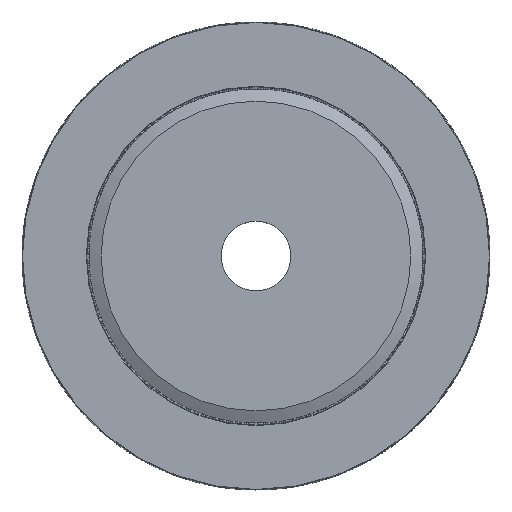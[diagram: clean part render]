
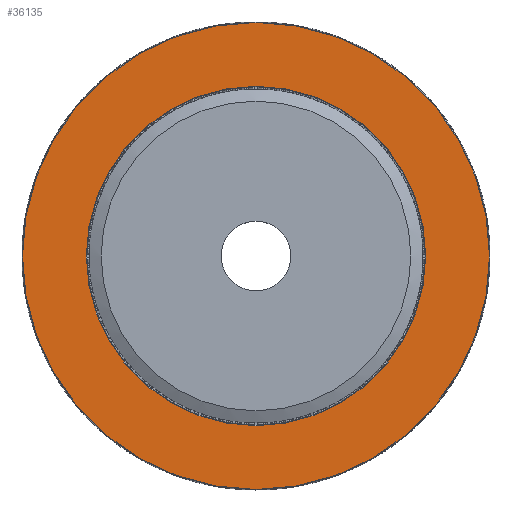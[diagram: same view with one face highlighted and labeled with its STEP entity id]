
A CAD part, top view. The second image highlights one B-rep face of the part: STEP entity #36135.
In plain terms, the highlighted planar face has unit normal (0, 0, 1).
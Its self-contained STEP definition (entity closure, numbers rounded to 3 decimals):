
#2836 = AXIS2_PLACEMENT_3D ( 'NONE', #6421, #40202, #11276 ) ;
#2977 = DIRECTION ( 'NONE',  ( 0., 0., -1. ) ) ;
#3382 = ORIENTED_EDGE ( 'NONE', *, *, #19302, .T. ) ;
#3448 = VERTEX_POINT ( 'NONE', #23914 ) ;
#6421 = CARTESIAN_POINT ( 'NONE',  ( 0., 0., 1. ) ) ;
#9982 = ORIENTED_EDGE ( 'NONE', *, *, #48443, .T. ) ;
#11249 = FACE_OUTER_BOUND ( 'NONE', #53705, .T. ) ;
#11276 = DIRECTION ( 'NONE',  ( -1., 0., 0. ) ) ;
#11878 = AXIS2_PLACEMENT_3D ( 'NONE', #23589, #57373, #28444 ) ;
#15491 = AXIS2_PLACEMENT_3D ( 'NONE', #22395, #2977, #27228 ) ;
#19302 = EDGE_CURVE ( 'NONE', #3448, #3448, #36039, .T. ) ;
#22395 = CARTESIAN_POINT ( 'NONE',  ( 0., 15.125, 1. ) ) ;
#23589 = CARTESIAN_POINT ( 'NONE',  ( 0., 0., 1. ) ) ;
#23914 = CARTESIAN_POINT ( 'NONE',  ( -10.968, 0., 1. ) ) ;
#24789 = FACE_BOUND ( 'NONE', #51688, .T. ) ;
#27228 = DIRECTION ( 'NONE',  ( -1., 0., 0. ) ) ;
#28444 = DIRECTION ( 'NONE',  ( -1., 0., 0. ) ) ;
#36039 = CIRCLE ( 'NONE', #2836, 10.968 ) ;
#36135 = ADVANCED_FACE ( 'NONE', ( #24789, #11249 ), #46458, .F. ) ;
#38506 = CARTESIAN_POINT ( 'NONE',  ( -15.095, 0., 1. ) ) ;
#38820 = VERTEX_POINT ( 'NONE', #38506 ) ;
#40202 = DIRECTION ( 'NONE',  ( 0., 0., -1. ) ) ;
#46458 = PLANE ( 'NONE',  #15491 ) ;
#48443 = EDGE_CURVE ( 'NONE', #38820, #38820, #50386, .T. ) ;
#50386 = CIRCLE ( 'NONE', #11878, 15.095 ) ;
#51688 = EDGE_LOOP ( 'NONE', ( #3382 ) ) ;
#53705 = EDGE_LOOP ( 'NONE', ( #9982 ) ) ;
#57373 = DIRECTION ( 'NONE',  ( 0., 0., 1. ) ) ;
